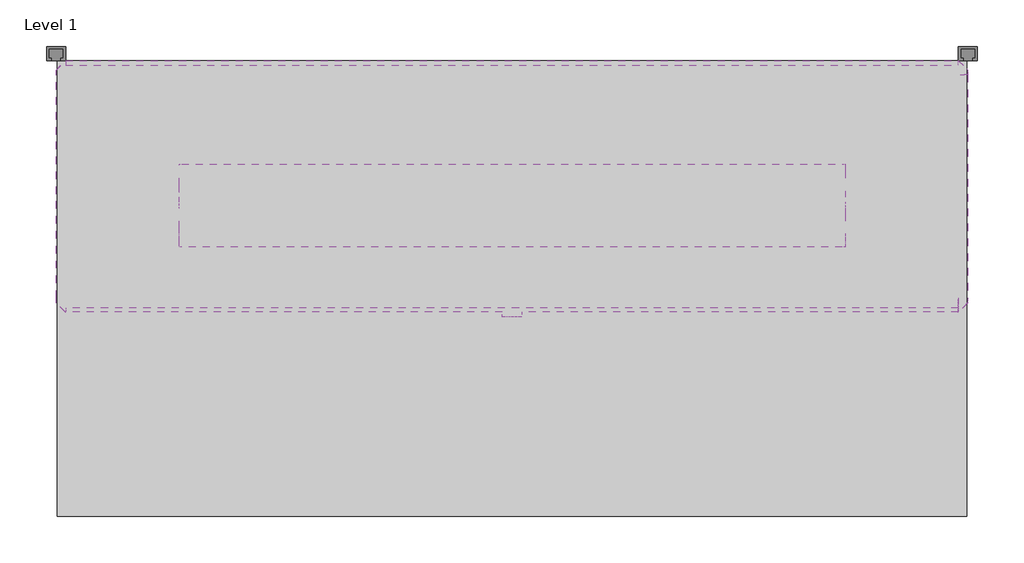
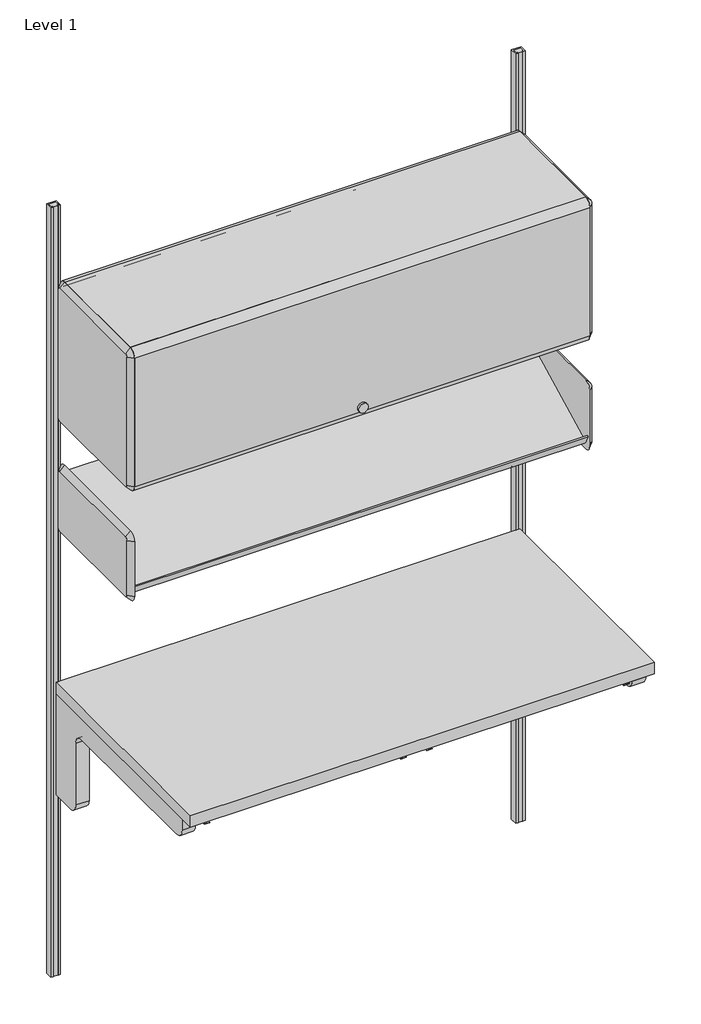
# One storey: 6 furniture elements, 1 light fixture.
"""IFC4 building model written with IfcOpenShell, lengths in millimetres."""

from ifc_helpers import new_model, si_unit, origin, place, context, project, spatial, transform, mapped, element, save
from components import furniture_de886b3f, furniture_84a85ef8, furniture_439dfb7c, furniture_33cd207f, furniture_ea425779, light_fixture_63fea846

model = new_model("IFC4")

# Units and contexts
model_context = context("Model", 3, world=origin())
ifc_project = project(units=[si_unit("LENGTHUNIT", "METRE", prefix="MILLI")], contexts=[model_context])

# Site, building, storey
site = spatial("IfcSite", under=ifc_project)
building = spatial("IfcBuilding", under=site)
storey = spatial("IfcBuildingStorey", under=building, Name="Level 1", Elevation=0.0)

# Furniture
placement = place(None, origin())
furniture_shape = furniture_de886b3f(model_context)
element("IfcFurniture", 1, ObjectType="HermanMiller_CoStruc_C2141_Heavy-DutyWorkSurface : 24\"D x 48\"W Lam", at=placement, inside=storey, context=model_context, shape_type="MappedRepresentation", body=[
    mapped(furniture_shape, transform((304.8, -196.85, 0.0), x_axis=(1.0, 0.0, 0.0), y_axis=(0.0, 1.0, 0.0), z_axis=(0.0, 0.0, 1.0))),
])
furniture_2_shape = furniture_84a85ef8(model_context)
element("IfcFurniture", 2, ObjectType="HermanMiller_CoStruc_C2140H_WorkSurfaceSupport_Heavy Duty : 11\"H x 24\"D x 48\"W", at=placement, inside=storey, context=model_context, shape_type="MappedRepresentation", body=[
    mapped(furniture_2_shape, transform((609.6, -196.85, 0.0), x_axis=(1.0, 0.0, 0.0), y_axis=(0.0, 1.0, 0.0), z_axis=(0.0, 0.0, 1.0))),
])
furniture_3_shape = furniture_439dfb7c(model_context)
element("IfcFurniture", 3, ObjectType="HermanMiller_ActionOffice_A3220_B-StyleStorageDisplay : Display 13\"D x 48\"W", at=placement, inside=storey, context=model_context, shape_type="MappedRepresentation", body=[
    mapped(furniture_3_shape, transform((733.5420045, -200.025, 0.0), x_axis=(1.0, 0.0, 0.0), y_axis=(0.0, 1.0, 0.0), z_axis=(0.0, 0.0, 1.0))),
])
furniture_4_shape = furniture_33cd207f(model_context)
element("IfcFurniture", 4, ObjectType="HermanMiller_ActionOffice_A3352_B-StyleFlipperDoorUnit : 15 1/2\"H x 13\"D x 48\"W", at=placement, inside=storey, context=model_context, shape_type="MappedRepresentation", body=[
    mapped(furniture_4_shape, transform((609.6, -200.025, 0.0), x_axis=(1.0, 0.0, 0.0), y_axis=(0.0, 1.0, 0.0), z_axis=(0.0, 0.0, 1.0))),
])
furniture_5_shape = furniture_ea425779(model_context)
element("IfcFurniture", 5, ObjectType="HermanMiller_ActionOffice_AO213_WallStrip : 84\"H", at=placement, inside=storey, context=model_context, shape_type="MappedRepresentation", body=[
    mapped(furniture_5_shape, transform((1219.2076613, 0.0, 0.0), x_axis=(1.0, 0.0, 0.0), y_axis=(0.0, 1.0, 0.0), z_axis=(0.0, 0.0, 1.0))),
])
element("IfcFurniture", 6, ObjectType="HermanMiller_ActionOffice_AO213_WallStrip : 84\"H", at=placement, inside=storey, context=model_context, shape_type="MappedRepresentation", body=[
    mapped(furniture_5_shape, transform((0.0, 0.0, 0.0), x_axis=(1.0, 0.0, 0.0), y_axis=(0.0, 1.0, 0.0), z_axis=(0.0, 0.0, 1.0))),
])

# Light fixture
light_fixture_shape = light_fixture_63fea846(model_context)
element("IfcLightFixture", 7, ObjectType="HermanMiller_SupplementalProducts_G6136_UtilityTaskLight : AO Etho Canvas 42W", at=placement, inside=storey, context=model_context, shape_type="MappedRepresentation", body=[
    mapped(light_fixture_shape, transform((609.6, -212.725, 0.0), x_axis=(1.0, 0.0, 0.0), y_axis=(0.0, 1.0, 0.0), z_axis=(0.0, 0.0, 1.0))),
])

save(model, "model.ifc")
